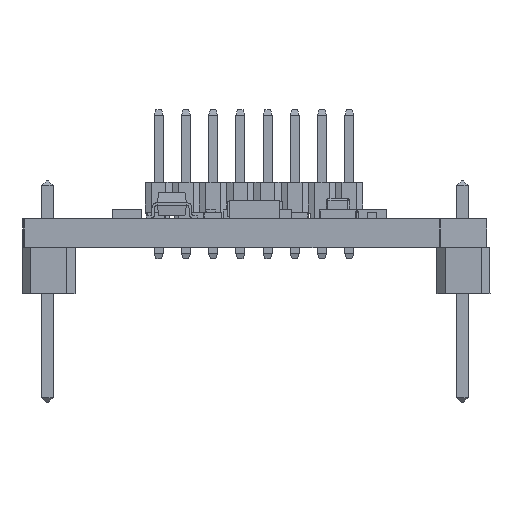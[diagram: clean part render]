
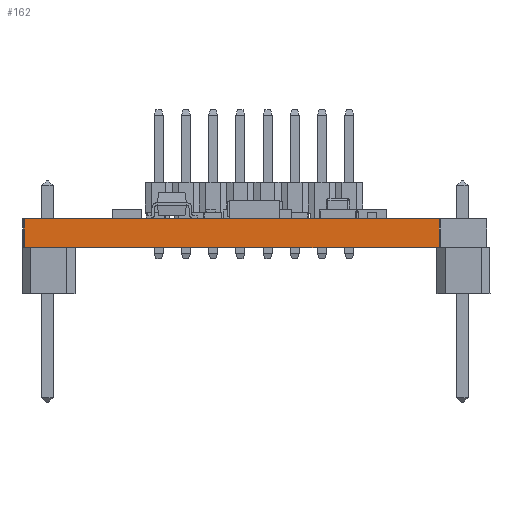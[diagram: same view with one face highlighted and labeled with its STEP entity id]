
A CAD part, front view. The second image highlights one B-rep face of the part: STEP entity #162.
In plain terms, the highlighted planar face has unit normal (0, -1, 0).
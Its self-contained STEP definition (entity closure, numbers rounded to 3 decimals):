
#124 = EDGE_CURVE('',#125,#127,#129,.T.);
#125 = VERTEX_POINT('',#126);
#126 = CARTESIAN_POINT('',(-1.269,-3.887,-1.59));
#127 = VERTEX_POINT('',#128);
#128 = CARTESIAN_POINT('',(-1.269,-3.887,0.));
#129 = LINE('',#130,#131);
#130 = CARTESIAN_POINT('',(-1.269,-3.887,-1.59));
#131 = VECTOR('',#132,1.);
#132 = DIRECTION('',(0.,0.,1.));
#162 = ADVANCED_FACE('',(#163),#188,.T.);
#163 = FACE_BOUND('',#164,.T.);
#164 = EDGE_LOOP('',(#165,#175,#181,#182));
#165 = ORIENTED_EDGE('',*,*,#166,.T.);
#166 = EDGE_CURVE('',#167,#169,#171,.T.);
#167 = VERTEX_POINT('',#168);
#168 = CARTESIAN_POINT('',(21.59,-3.887,-1.59));
#169 = VERTEX_POINT('',#170);
#170 = CARTESIAN_POINT('',(21.59,-3.887,0.));
#171 = LINE('',#172,#173);
#172 = CARTESIAN_POINT('',(21.59,-3.887,-1.59));
#173 = VECTOR('',#174,1.);
#174 = DIRECTION('',(0.,0.,1.));
#175 = ORIENTED_EDGE('',*,*,#176,.T.);
#176 = EDGE_CURVE('',#169,#127,#177,.T.);
#177 = LINE('',#178,#179);
#178 = CARTESIAN_POINT('',(21.59,-3.887,0.));
#179 = VECTOR('',#180,1.);
#180 = DIRECTION('',(-1.,0.,0.));
#181 = ORIENTED_EDGE('',*,*,#124,.F.);
#182 = ORIENTED_EDGE('',*,*,#183,.F.);
#183 = EDGE_CURVE('',#167,#125,#184,.T.);
#184 = LINE('',#185,#186);
#185 = CARTESIAN_POINT('',(21.59,-3.887,-1.59));
#186 = VECTOR('',#187,1.);
#187 = DIRECTION('',(-1.,0.,0.));
#188 = PLANE('',#189);
#189 = AXIS2_PLACEMENT_3D('',#190,#191,#192);
#190 = CARTESIAN_POINT('',(21.59,-3.887,-1.59));
#191 = DIRECTION('',(0.,-1.,0.));
#192 = DIRECTION('',(-1.,0.,0.));
